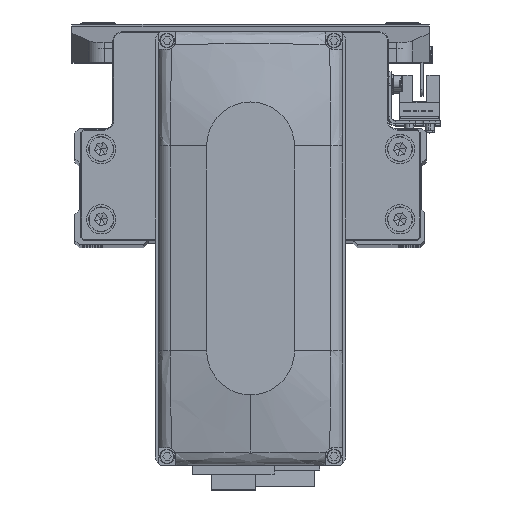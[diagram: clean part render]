
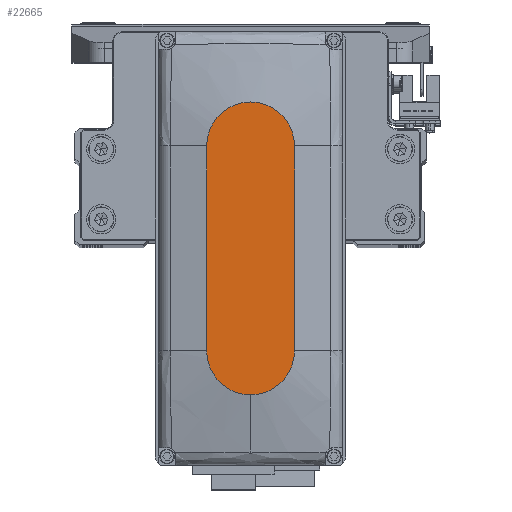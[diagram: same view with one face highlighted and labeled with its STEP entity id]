
A CAD part, top view. The second image highlights one B-rep face of the part: STEP entity #22665.
In plain terms, the highlighted planar face has unit normal (0, 0, 1).
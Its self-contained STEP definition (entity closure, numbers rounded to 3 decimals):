
#373 = AXIS2_PLACEMENT_3D ( 'NONE', #31521, #697, #14427 ) ;
#400 = CIRCLE ( 'NONE', #373, 15. ) ;
#540 = EDGE_CURVE ( 'NONE', #24263, #24440, #400, .T. ) ;
#697 = DIRECTION ( 'NONE',  ( 0., 0., 1. ) ) ;
#1737 = CARTESIAN_POINT ( 'NONE',  ( -35., 15., 35. ) ) ;
#4381 = EDGE_CURVE ( 'NONE', #39061, #24736, #38322, .T. ) ;
#4438 = DIRECTION ( 'NONE',  ( 0., 0., 1. ) ) ;
#4631 = CARTESIAN_POINT ( 'NONE',  ( 35., 0., 35. ) ) ;
#7446 = LINE ( 'NONE', #21157, #38491 ) ;
#7482 = CARTESIAN_POINT ( 'NONE',  ( -35., 15., 35. ) ) ;
#7807 = FACE_OUTER_BOUND ( 'NONE', #23387, .T. ) ;
#11111 = DIRECTION ( 'NONE',  ( 1., 0., 0. ) ) ;
#13447 = AXIS2_PLACEMENT_3D ( 'NONE', #4631, #18342, #32076 ) ;
#13688 = CARTESIAN_POINT ( 'NONE',  ( -35., -15., 35. ) ) ;
#14427 = DIRECTION ( 'NONE',  ( 1., 0., 0. ) ) ;
#15173 = EDGE_CURVE ( 'NONE', #24440, #39061, #32861, .T. ) ;
#15258 = ORIENTED_EDGE ( 'NONE', *, *, #4381, .T. ) ;
#15710 = AXIS2_PLACEMENT_3D ( 'NONE', #28225, #41946, #11111 ) ;
#18145 = DIRECTION ( 'NONE',  ( 1., 0., 0. ) ) ;
#18342 = DIRECTION ( 'NONE',  ( 0., 0., 1. ) ) ;
#19988 = CARTESIAN_POINT ( 'NONE',  ( 50., 0., 35. ) ) ;
#21157 = CARTESIAN_POINT ( 'NONE',  ( -35., -15., 35. ) ) ;
#21196 = DIRECTION ( 'NONE',  ( -1., 0., 0. ) ) ;
#21296 = EDGE_CURVE ( 'NONE', #24736, #24523, #35120, .T. ) ;
#21517 = PLANE ( 'NONE',  #40873 ) ;
#22074 = VECTOR ( 'NONE', #21196, 1000. ) ;
#22258 = CARTESIAN_POINT ( 'NONE',  ( 35., -15., 35. ) ) ;
#22415 = ORIENTED_EDGE ( 'NONE', *, *, #30121, .T. ) ;
#22665 = ADVANCED_FACE ( 'NONE', ( #7807 ), #21517, .T. ) ;
#23387 = EDGE_LOOP ( 'NONE', ( #15258, #29842, #22415, #28354, #39610 ) ) ;
#24263 = VERTEX_POINT ( 'NONE', #22258 ) ;
#24440 = VERTEX_POINT ( 'NONE', #19988 ) ;
#24523 = VERTEX_POINT ( 'NONE', #13688 ) ;
#24736 = VERTEX_POINT ( 'NONE', #1737 ) ;
#28225 = CARTESIAN_POINT ( 'NONE',  ( -35., 0., 35. ) ) ;
#28354 = ORIENTED_EDGE ( 'NONE', *, *, #540, .T. ) ;
#29842 = ORIENTED_EDGE ( 'NONE', *, *, #21296, .T. ) ;
#30121 = EDGE_CURVE ( 'NONE', #24523, #24263, #7446, .T. ) ;
#31521 = CARTESIAN_POINT ( 'NONE',  ( 35., 0., 35. ) ) ;
#32076 = DIRECTION ( 'NONE',  ( 1., 0., 0. ) ) ;
#32861 = CIRCLE ( 'NONE', #13447, 15. ) ;
#34914 = DIRECTION ( 'NONE',  ( 1., 0., 0. ) ) ;
#35120 = CIRCLE ( 'NONE', #15710, 15. ) ;
#35270 = CARTESIAN_POINT ( 'NONE',  ( 0., 0., 35. ) ) ;
#35766 = CARTESIAN_POINT ( 'NONE',  ( 35., 15., 35. ) ) ;
#38322 = LINE ( 'NONE', #7482, #22074 ) ;
#38491 = VECTOR ( 'NONE', #34914, 1000. ) ;
#39061 = VERTEX_POINT ( 'NONE', #35766 ) ;
#39610 = ORIENTED_EDGE ( 'NONE', *, *, #15173, .T. ) ;
#40873 = AXIS2_PLACEMENT_3D ( 'NONE', #35270, #4438, #18145 ) ;
#41946 = DIRECTION ( 'NONE',  ( 0., 0., 1. ) ) ;
